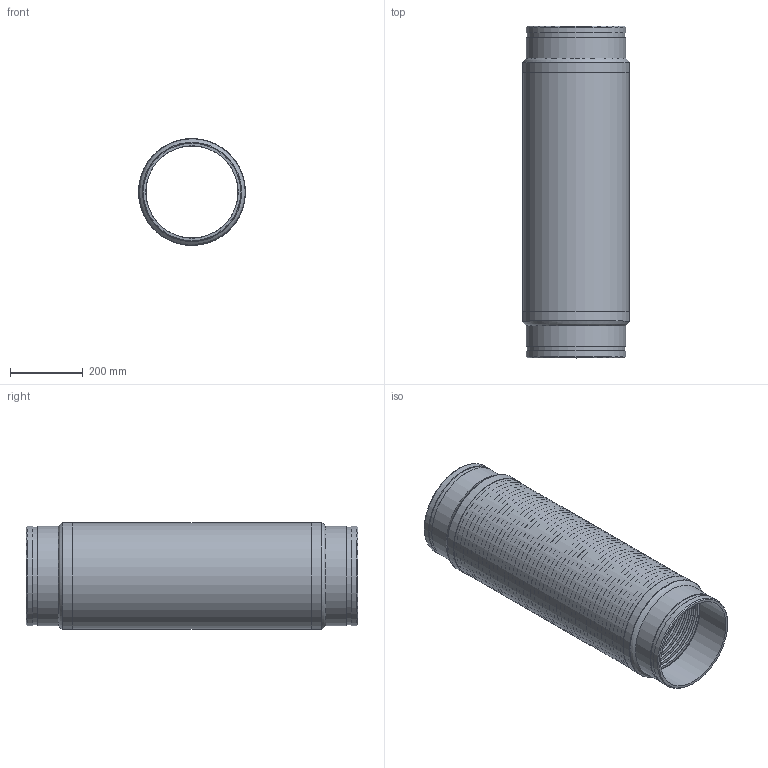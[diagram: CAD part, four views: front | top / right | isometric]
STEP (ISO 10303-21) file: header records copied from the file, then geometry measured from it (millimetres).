
FILE_DESCRIPTION((''),'2;1');
FILE_NAME('C:\2012_Work\Designs\GWN\GWN-10x36.stp','2013-08-13T14:20:30',('KShiels'),(''),'Autodesk Inventor 2012','Autodesk Inventor 2012','');
FILE_SCHEMA(('AUTOMOTIVE_DESIGN { 1 0 10303 214 1 1 1 1 }'));
Length unit declared in the file: inch
Products named in the file (6): GWN-10x36; GWN-10x36_Welds; A-30116-4_10in_GN-BRAID; A-30116-4_10in_GN-BELLOWS; A-30116-4_10in_GN-BRAID-COLLAR; A-30116-4_10in_GN-GROOVED_NIPPLE
Assembly tree (7 placements, depth 2):
  GWN-10x36
    GWN-10x36_Welds
    A-30116-4_10in_GN-BRAID
    A-30116-4_10in_GN-BELLOWS
    A-30116-4_10in_GN-BRAID-COLLAR  x2
    A-30116-4_10in_GN-GROOVED_NIPPLE  x2
Bounding box: 294.68 x 914.4 x 294.68 mm (x, y, z)
Volume: 3238697.9 mm3; surface area: 5556144.3 mm2
Topology: 8 solids, 8 shells, 432 faces, 656 edges, 438 vertices
Faces by surface type: plane 214, torus 198, cylinder 16, bspline 2, cone 2
Full cylindrical faces by diameter (mm): 254.508 x2, 268.275 x2, 273.05 x6, 291.084 x1, 292.303 x3, 294.684 x2
Entity records: 9175 total; most frequent: CARTESIAN_POINT 1824, DIRECTION 1690, ORIENTED_EDGE 850, AXIS2_PLACEMENT_3D 845, EDGE_LOOP 836, EDGE_CURVE 425, VERTEX_POINT 423, FACE_OUTER_BOUND 419
